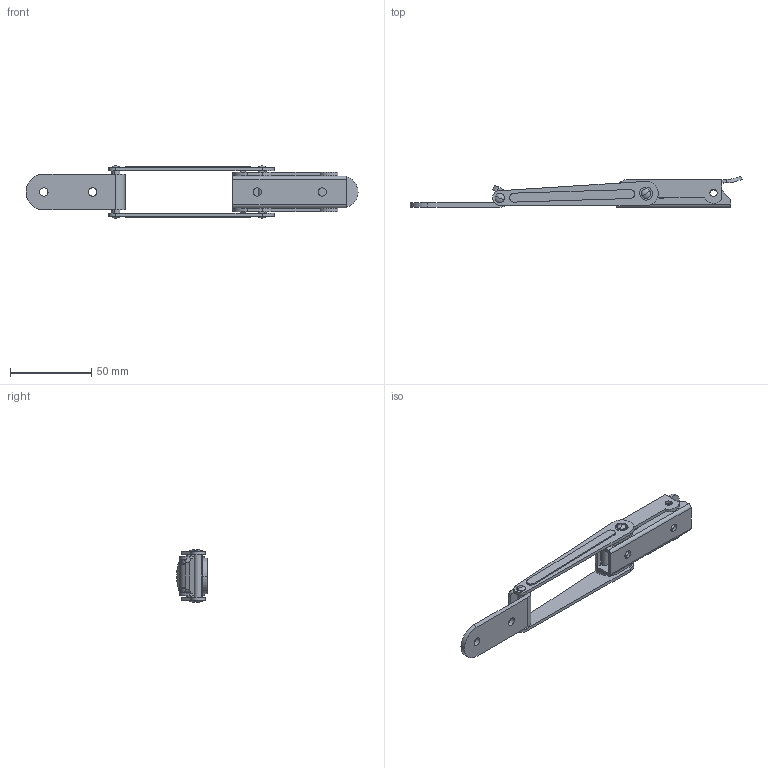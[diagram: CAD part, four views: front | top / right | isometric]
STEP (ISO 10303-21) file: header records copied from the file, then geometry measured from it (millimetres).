
FILE_DESCRIPTION (( 'STEP AP203' ), '1' );
FILE_NAME ('C-271.STEP', '2013-05-01T07:56:45', ( '11sw' ), ( 'タキゲン製造株式会社' ), 'SwSTEP 2.0', 'SolidWorks 2012', '' );
FILE_SCHEMA (( 'CONFIG_CONTROL_DESIGN' ));
Length unit declared in the file: millimetre
Products named in the file (7): C-271ベース_; C-271レバー_; C-271軸__軸2; C-271受け_; C-271フックアーム_; C-271; C-271軸__軸1
Assembly tree (8 placements, depth 2):
  C-271
    C-271ベース_
    C-271レバー_
    C-271軸__軸1
    C-271フックアーム_  x2
    C-271軸__軸2  x2
    C-271受け_
Bounding box: 204.21 x 19 x 32.2 mm (x, y, z)
Volume: 22628 mm3; surface area: 23769.2 mm2
Topology: 9 solids, 9 shells, 174 faces, 436 edges, 290 vertices
Faces by surface type: cylinder 92, plane 62, sphere 12, cone 8
Entity records: 5469 total; most frequent: CARTESIAN_POINT 879, DIRECTION 860, ORIENTED_EDGE 748, EDGE_CURVE 374, AXIS2_PLACEMENT_3D 333, VERTEX_POINT 248, LINE 194, VECTOR 194
